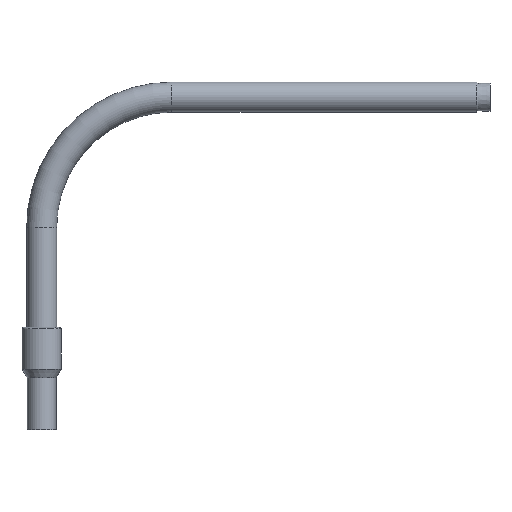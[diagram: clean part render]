
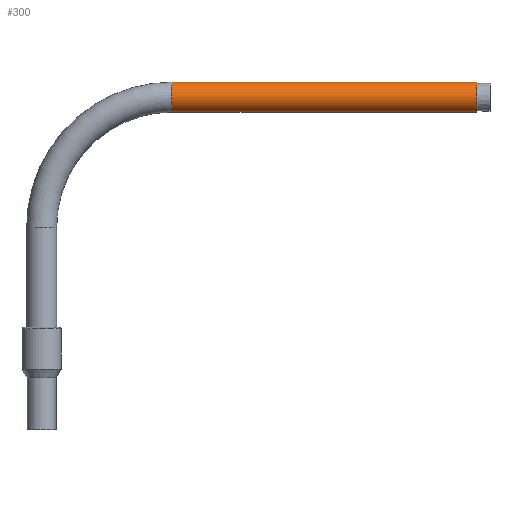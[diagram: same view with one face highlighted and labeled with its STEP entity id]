
A CAD part, front view. The second image highlights one B-rep face of the part: STEP entity #300.
In plain terms, the highlighted cylindrical face has radius 25.95 mm (diameter 51.9 mm), a full revolution.
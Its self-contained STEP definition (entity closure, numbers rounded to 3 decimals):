
#41=ORIENTED_EDGE('',*,*,#79,.T.);
#42=ORIENTED_EDGE('',*,*,#80,.T.);
#79=EDGE_CURVE('',#98,#98,#117,.T.);
#80=EDGE_CURVE('',#99,#99,#118,.F.);
#98=VERTEX_POINT('',#455);
#99=VERTEX_POINT('',#457);
#117=CIRCLE('',#331,25.95);
#118=CIRCLE('',#332,25.95);
#136=EDGE_LOOP('',(#41));
#137=EDGE_LOOP('',(#42));
#174=FACE_BOUND('',#136,.T.);
#175=FACE_BOUND('',#137,.T.);
#212=CYLINDRICAL_SURFACE('',#330,25.95);
#300=ADVANCED_FACE('',(#174,#175),#212,.T.);
#330=AXIS2_PLACEMENT_3D('',#453,#372,#373);
#331=AXIS2_PLACEMENT_3D('',#454,#374,#375);
#332=AXIS2_PLACEMENT_3D('',#456,#376,#377);
#372=DIRECTION('',(1.,0.,0.));
#373=DIRECTION('',(0.,0.,-1.));
#374=DIRECTION('',(-1.,0.,0.));
#375=DIRECTION('',(0.,0.,1.));
#376=DIRECTION('',(-1.,0.,0.));
#377=DIRECTION('',(0.,0.,-1.));
#453=CARTESIAN_POINT('',(250.95,0.,471.));
#454=CARTESIAN_POINT('',(777.95,0.,471.));
#455=CARTESIAN_POINT('',(777.95,0.,496.95));
#456=CARTESIAN_POINT('',(250.95,0.,471.));
#457=CARTESIAN_POINT('',(250.95,0.,445.05));
